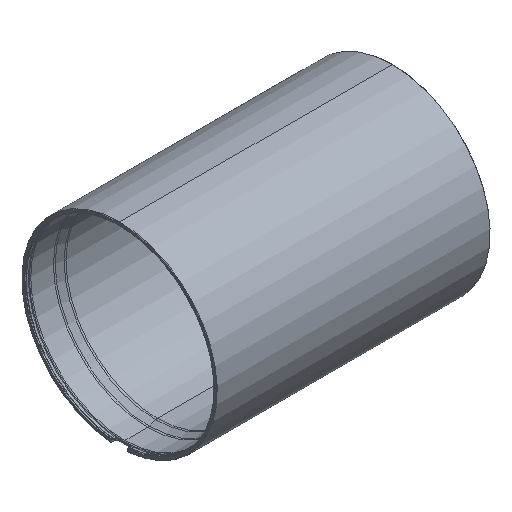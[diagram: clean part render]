
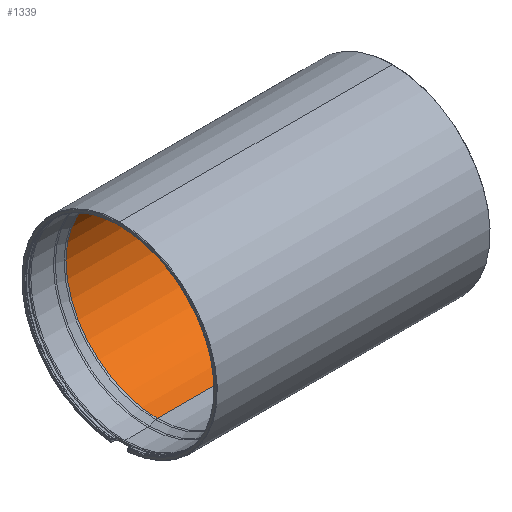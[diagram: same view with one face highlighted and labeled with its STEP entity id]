
A CAD part, isometric view. The second image highlights one B-rep face of the part: STEP entity #1339.
In plain terms, the highlighted cylindrical face has radius 100 mm (diameter 200 mm), a partial arc.
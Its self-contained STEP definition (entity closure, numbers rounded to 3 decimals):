
#4 = CARTESIAN_POINT ( 'NONE',  ( -258.299, 0., 0. ) ) ;
#97 = EDGE_CURVE ( 'NONE', #5040, #3655, #2329, .T. ) ;
#562 = CYLINDRICAL_SURFACE ( 'NONE', #2742, 100. ) ;
#615 = CARTESIAN_POINT ( 'NONE',  ( -76.2, 0., 100. ) ) ;
#757 = LINE ( 'NONE', #1104, #841 ) ;
#841 = VECTOR ( 'NONE', #1534, 1000. ) ;
#861 = AXIS2_PLACEMENT_3D ( 'NONE', #4, #4874, #2840 ) ;
#1104 = CARTESIAN_POINT ( 'NONE',  ( -76.2, 0., -100. ) ) ;
#1201 = CIRCLE ( 'NONE', #3944, 100. ) ;
#1239 = DIRECTION ( 'NONE',  ( 0., 0., -1. ) ) ;
#1248 = CARTESIAN_POINT ( 'NONE',  ( -41.701, 0., 100. ) ) ;
#1287 = VERTEX_POINT ( 'NONE', #2093 ) ;
#1339 = ADVANCED_FACE ( 'NONE', ( #4969 ), #562, .F. ) ;
#1361 = ORIENTED_EDGE ( 'NONE', *, *, #3191, .F. ) ;
#1524 = EDGE_LOOP ( 'NONE', ( #1361, #3168, #3773, #2666 ) ) ;
#1534 = DIRECTION ( 'NONE',  ( -1., 0., 0. ) ) ;
#1803 = EDGE_CURVE ( 'NONE', #3655, #2243, #4459, .T. ) ;
#1813 = CARTESIAN_POINT ( 'NONE',  ( -76.2, 0., 0. ) ) ;
#1871 = VECTOR ( 'NONE', #3885, 1000. ) ;
#2045 = EDGE_CURVE ( 'NONE', #1287, #5040, #1201, .T. ) ;
#2093 = CARTESIAN_POINT ( 'NONE',  ( -41.701, 0., -100. ) ) ;
#2215 = DIRECTION ( 'NONE',  ( 0., 0., 1. ) ) ;
#2243 = VERTEX_POINT ( 'NONE', #3757 ) ;
#2329 = LINE ( 'NONE', #615, #1871 ) ;
#2473 = CARTESIAN_POINT ( 'NONE',  ( -41.701, 0., 0. ) ) ;
#2666 = ORIENTED_EDGE ( 'NONE', *, *, #1803, .T. ) ;
#2703 = CARTESIAN_POINT ( 'NONE',  ( -258.299, 0., 100. ) ) ;
#2742 = AXIS2_PLACEMENT_3D ( 'NONE', #1813, #3431, #2215 ) ;
#2840 = DIRECTION ( 'NONE',  ( 0., 0., -1. ) ) ;
#2927 = DIRECTION ( 'NONE',  ( 1., 0., 0. ) ) ;
#3168 = ORIENTED_EDGE ( 'NONE', *, *, #2045, .T. ) ;
#3191 = EDGE_CURVE ( 'NONE', #1287, #2243, #757, .T. ) ;
#3431 = DIRECTION ( 'NONE',  ( -1., 0., 0. ) ) ;
#3655 = VERTEX_POINT ( 'NONE', #2703 ) ;
#3757 = CARTESIAN_POINT ( 'NONE',  ( -258.299, 0., -100. ) ) ;
#3773 = ORIENTED_EDGE ( 'NONE', *, *, #97, .T. ) ;
#3885 = DIRECTION ( 'NONE',  ( -1., 0., 0. ) ) ;
#3944 = AXIS2_PLACEMENT_3D ( 'NONE', #2473, #2927, #1239 ) ;
#4459 = CIRCLE ( 'NONE', #861, 100. ) ;
#4874 = DIRECTION ( 'NONE',  ( -1., 0., 0. ) ) ;
#4969 = FACE_OUTER_BOUND ( 'NONE', #1524, .T. ) ;
#5040 = VERTEX_POINT ( 'NONE', #1248 ) ;
